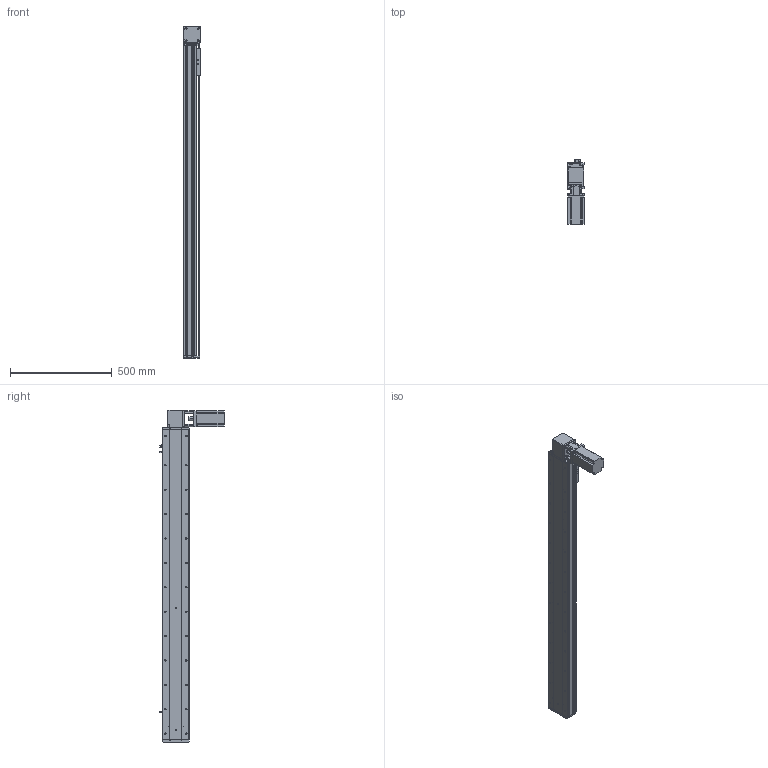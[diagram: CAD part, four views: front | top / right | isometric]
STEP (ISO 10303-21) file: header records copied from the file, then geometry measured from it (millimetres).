
FILE_DESCRIPTION (( 'STEP AP214' ), '1' );
FILE_NAME ('KSD130B-S1300-MLT-CM.STEP', '2019-09-23T07:29:32', ( '微软用户' ), ( '微软中国' ), 'SwSTEP 2.0', 'SolidWorks 2014', '' );
FILE_SCHEMA (( 'AUTOMOTIVE_DESIGN' ));
Length unit declared in the file: millimetre
Products named in the file (12): 130宽马达安装板同步带半封闭; 130宽同步带安装座半封闭; 130宽端盖同步带半封闭; 130宽底板半封闭同步带-1300行程; KSD130B-S1300-MLT-CM; 台达ECMA－C20807AS伺服电机; 130宽马达安装板1-带电机座750W（1）; 覜茼え100遵圉猾敕; U倰嫖萇EEㄜSX672; 130宽安装板同步带带电机座750W; 130宽盖板半封闭同步带-1300行程; 130宽马达安装板同步带左-改
Assembly tree (13 placements, depth 2):
  KSD130B-S1300-MLT-CM
    130宽底板半封闭同步带-1300行程
    130宽端盖同步带半封闭
    130宽同步带安装座半封闭
    130宽马达安装板同步带半封闭
    130宽马达安装板同步带左-改
    130宽盖板半封闭同步带-1300行程
    130宽安装板同步带带电机座750W
    U倰嫖萇EEㄜSX672  x3
    覜茼え100遵圉猾敕
    130宽马达安装板1-带电机座750W（1）
    台达ECMA－C20807AS伺服电机
Bounding box: 81 x 316 x 1633 mm (x, y, z)
Volume: 5773111.2 mm3; surface area: 1561097.6 mm2
Topology: 14 solids, 14 shells, 1597 faces, 4592 edges, 2921 vertices
Faces by surface type: cylinder 779, plane 617, cone 201
Entity records: 53307 total; most frequent: CARTESIAN_POINT 10075, DIRECTION 8078, ORIENTED_EDGE 7780, EDGE_CURVE 3890, AXIS2_PLACEMENT_3D 2976, VERTEX_POINT 2545, LINE 2126, VECTOR 2126
